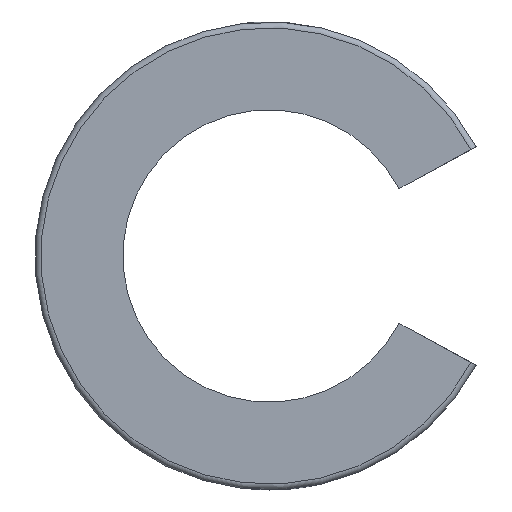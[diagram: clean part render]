
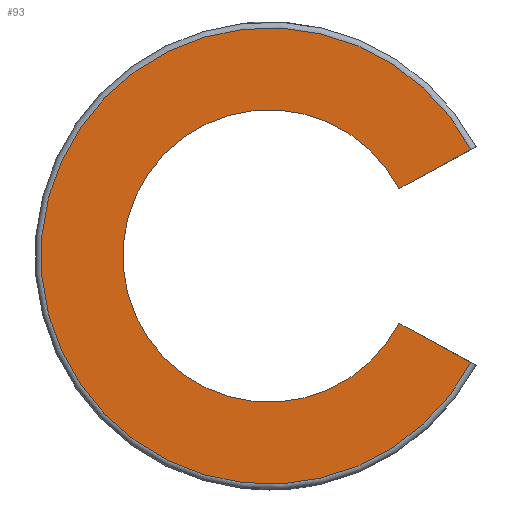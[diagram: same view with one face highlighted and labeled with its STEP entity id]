
A CAD part, left-side view. The second image highlights one B-rep face of the part: STEP entity #93.
In plain terms, the highlighted planar face has unit normal (-1, 0, 0).
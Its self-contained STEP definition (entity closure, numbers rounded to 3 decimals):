
#93=ADVANCED_FACE('',(#136),#137,.T.);
#136=FACE_OUTER_BOUND('',#180,.T.);
#137=PLANE('',#181);
#180=EDGE_LOOP('',(#322,#323,#324,#325));
#181=AXIS2_PLACEMENT_3D('',#326,#327,#328);
#322=ORIENTED_EDGE('',*,*,#352,.T.);
#323=ORIENTED_EDGE('',*,*,#364,.T.);
#324=ORIENTED_EDGE('',*,*,#381,.F.);
#325=ORIENTED_EDGE('',*,*,#349,.T.);
#326=CARTESIAN_POINT('',(-29.0,12.5,0.0));
#327=DIRECTION('',(-1.0,0.0,0.0));
#328=DIRECTION('',(0.0,0.0,1.0));
#349=EDGE_CURVE('',#383,#407,#409,.T.);
#352=EDGE_CURVE('',#407,#412,#414,.T.);
#364=EDGE_CURVE('',#412,#433,#435,.T.);
#381=EDGE_CURVE('',#383,#433,#459,.T.);
#383=VERTEX_POINT('',#461);
#407=VERTEX_POINT('',#501);
#409=LINE('',#508,#509);
#412=VERTEX_POINT('',#512);
#414=CIRCLE('',#519,19.5);
#433=VERTEX_POINT('',#642);
#435=LINE('',#645,#646);
#459=CIRCLE('',#683,12.5);
#461=CARTESIAN_POINT('',(-29.0,-11.099,5.75));
#501=CARTESIAN_POINT('',(-29.,-17.251,9.091));
#508=CARTESIAN_POINT('',(-29.0,9.538,-5.455));
#509=VECTOR('',#695,1.0);
#512=CARTESIAN_POINT('',(-29.,-17.251,-9.091));
#519=AXIS2_PLACEMENT_3D('',#699,#700,#701);
#642=CARTESIAN_POINT('',(-29.0,-11.099,-5.75));
#645=CARTESIAN_POINT('',(-29.0,9.538,5.455));
#646=VECTOR('',#723,1.0);
#683=AXIS2_PLACEMENT_3D('',#753,#754,#755);
#695=DIRECTION('',(0.0,-0.879,0.477));
#699=CARTESIAN_POINT('',(-29.0,0.0,0.0));
#700=DIRECTION('',(-1.0,0.0,0.0));
#701=DIRECTION('',(0.0,0.0,1.0));
#723=DIRECTION('',(0.0,0.879,0.477));
#753=CARTESIAN_POINT('',(-29.0,0.0,0.0));
#754=DIRECTION('',(-1.0,0.0,0.0));
#755=DIRECTION('',(0.0,0.0,1.0));
